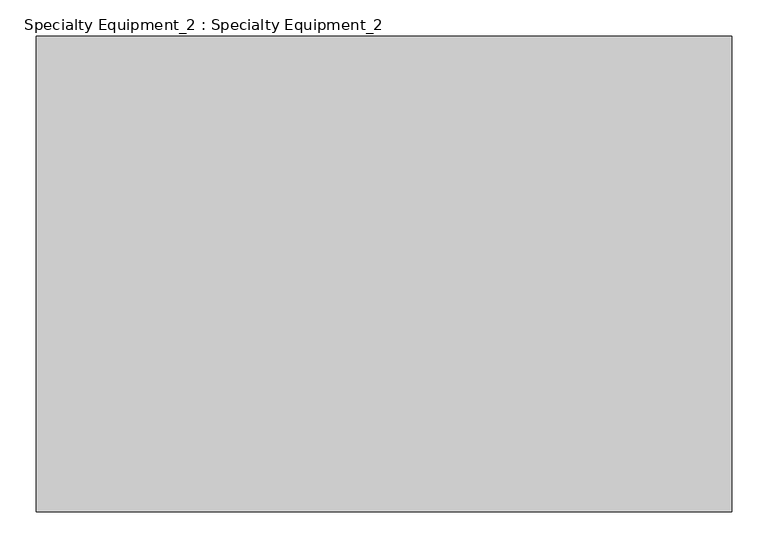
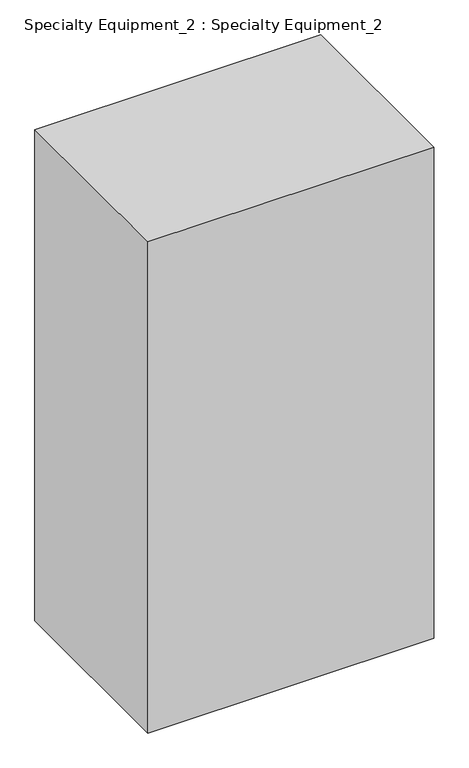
"""IFC4 building model written with IfcOpenShell, lengths in millimetres: proxy geometry, Specialty Equipment_2 : Specialty Equipment_2."""

from ifc_helpers import new_model, si_unit, origin, origin_with_axes, place, context, project, spatial, polyline, outline, extrude, source, transform, mapped, element, save


def specialty_equipment_2_specialty_equipment_2_3676869b(model_context):
    return source(origin(), model_context, "Body", "SweptSolid", [
        extrude(outline(polyline([(482.6, 0.0), (482.6, -660.4), (-482.6, -660.4), (-482.6, 0.0), (482.6, 0.0)])), origin_with_axes(), (0.0, 0.0, 1.0), 1752.6),
    ])


if __name__ == "__main__":
    model = new_model("IFC4")
    model_context = context("Model", 3, world=origin())
    ifc_project = project(units=[si_unit("LENGTHUNIT", "METRE", prefix="MILLI")], contexts=[model_context])
    site = spatial("IfcSite", under=ifc_project)
    building = spatial("IfcBuilding", under=site)
    placement = place(None, origin())
    specialty_equipment_2_specialty_equipment_2_shape = specialty_equipment_2_specialty_equipment_2_3676869b(model_context)
    element("IfcBuildingElementProxy", 1, Name="Specialty Equipment_2 : Specialty Equipment_2", ObjectType="Specialty Equipment_2 : Specialty Equipment_2", at=placement, inside=building, context=model_context, shape_type="MappedRepresentation", body=[
        mapped(specialty_equipment_2_specialty_equipment_2_shape, transform((0.0, 0.0, 0.0), x_axis=(1.0, 0.0, 0.0), y_axis=(0.0, 1.0, 0.0), z_axis=(0.0, 0.0, 1.0))),
    ])
    save(model, "model.ifc")
